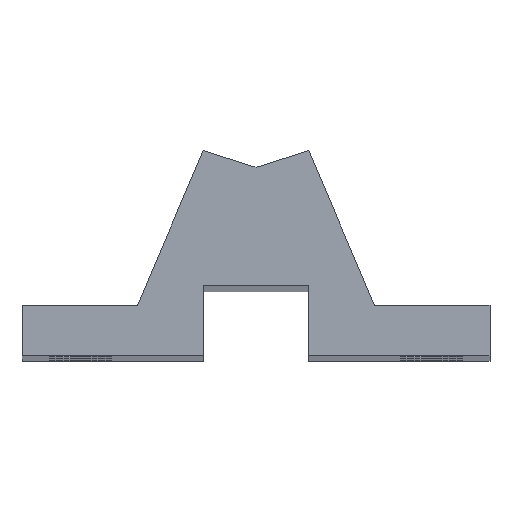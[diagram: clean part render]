
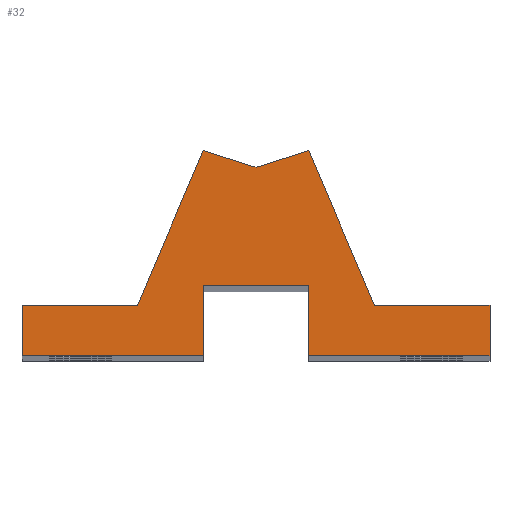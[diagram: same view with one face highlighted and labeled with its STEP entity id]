
A CAD part, top view. The second image highlights one B-rep face of the part: STEP entity #32.
In plain terms, the highlighted planar face has unit normal (0, 0, 1).
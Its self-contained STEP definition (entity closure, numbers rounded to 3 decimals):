
#9 = ORIENTED_EDGE ( 'NONE', *, *, #587, .T. ) ;
#17 = VERTEX_POINT ( 'NONE', #297 ) ;
#19 = EDGE_CURVE ( 'NONE', #779, #537, #410, .T. ) ;
#21 = CARTESIAN_POINT ( 'NONE',  ( -21.274, 4.5, 299.75 ) ) ;
#31 = CARTESIAN_POINT ( 'NONE',  ( -9.5, -4.5, 299.75 ) ) ;
#32 = ADVANCED_FACE ( 'NONE', ( #400 ), #995, .T. ) ;
#40 = VECTOR ( 'NONE', #536, 1000. ) ;
#55 = CARTESIAN_POINT ( 'NONE',  ( -9.5, 8., 299.75 ) ) ;
#76 = VERTEX_POINT ( 'NONE', #694 ) ;
#77 = ORIENTED_EDGE ( 'NONE', *, *, #942, .T. ) ;
#82 = EDGE_CURVE ( 'NONE', #542, #692, #405, .T. ) ;
#93 = VECTOR ( 'NONE', #1148, 1000. ) ;
#105 = CARTESIAN_POINT ( 'NONE',  ( -42., 4.5, 299.75 ) ) ;
#117 = CARTESIAN_POINT ( 'NONE',  ( 9.5, -4.5, 299.75 ) ) ;
#126 = LINE ( 'NONE', #1128, #415 ) ;
#150 = LINE ( 'NONE', #290, #922 ) ;
#158 = DIRECTION ( 'NONE',  ( -1., 0., 0. ) ) ;
#197 = CARTESIAN_POINT ( 'NONE',  ( 0., 0., 299.75 ) ) ;
#222 = VECTOR ( 'NONE', #613, 1000. ) ;
#227 = DIRECTION ( 'NONE',  ( -1., 0., 0. ) ) ;
#241 = VERTEX_POINT ( 'NONE', #453 ) ;
#264 = CARTESIAN_POINT ( 'NONE',  ( 0., 29.287, 299.75 ) ) ;
#290 = CARTESIAN_POINT ( 'NONE',  ( -9.5, 8., 299.75 ) ) ;
#297 = CARTESIAN_POINT ( 'NONE',  ( -21.274, 4.5, 299.75 ) ) ;
#306 = ORIENTED_EDGE ( 'NONE', *, *, #801, .T. ) ;
#309 = CARTESIAN_POINT ( 'NONE',  ( -42., 4.5, 299.75 ) ) ;
#330 = LINE ( 'NONE', #832, #430 ) ;
#332 = LINE ( 'NONE', #21, #727 ) ;
#338 = CARTESIAN_POINT ( 'NONE',  ( -42., -4.5, 299.75 ) ) ;
#340 = EDGE_CURVE ( 'NONE', #692, #779, #150, .T. ) ;
#354 = VECTOR ( 'NONE', #1032, 1000. ) ;
#361 = VERTEX_POINT ( 'NONE', #654 ) ;
#392 = VECTOR ( 'NONE', #1086, 1000. ) ;
#400 = FACE_OUTER_BOUND ( 'NONE', #1078, .T. ) ;
#404 = CARTESIAN_POINT ( 'NONE',  ( -42., -4.5, 299.75 ) ) ;
#405 = LINE ( 'NONE', #1092, #1107 ) ;
#410 = LINE ( 'NONE', #1276, #392 ) ;
#415 = VECTOR ( 'NONE', #815, 1000. ) ;
#417 = DIRECTION ( 'NONE',  ( 1., 0., 0. ) ) ;
#419 = VERTEX_POINT ( 'NONE', #601 ) ;
#429 = DIRECTION ( 'NONE',  ( 0., -1., 0. ) ) ;
#430 = VECTOR ( 'NONE', #227, 1000. ) ;
#432 = CARTESIAN_POINT ( 'NONE',  ( 9.45, 32.355, 299.75 ) ) ;
#437 = CARTESIAN_POINT ( 'NONE',  ( 9.731, 32.355, 299.75 ) ) ;
#446 = LINE ( 'NONE', #338, #40 ) ;
#453 = CARTESIAN_POINT ( 'NONE',  ( 9.483, 32.277, 299.75 ) ) ;
#458 = ORIENTED_EDGE ( 'NONE', *, *, #1079, .T. ) ;
#472 = ORIENTED_EDGE ( 'NONE', *, *, #867, .T. ) ;
#503 = ORIENTED_EDGE ( 'NONE', *, *, #340, .F. ) ;
#507 = VERTEX_POINT ( 'NONE', #811 ) ;
#536 = DIRECTION ( 'NONE',  ( 1., 0., 0. ) ) ;
#537 = VERTEX_POINT ( 'NONE', #31 ) ;
#540 = LINE ( 'NONE', #432, #1197 ) ;
#542 = VERTEX_POINT ( 'NONE', #117 ) ;
#555 = ORIENTED_EDGE ( 'NONE', *, *, #1048, .T. ) ;
#565 = LINE ( 'NONE', #1157, #93 ) ;
#566 = EDGE_CURVE ( 'NONE', #507, #537, #446, .T. ) ;
#574 = VERTEX_POINT ( 'NONE', #1187 ) ;
#587 = EDGE_CURVE ( 'NONE', #419, #507, #643, .T. ) ;
#601 = CARTESIAN_POINT ( 'NONE',  ( -42., 4.5, 299.75 ) ) ;
#606 = LINE ( 'NONE', #105, #1183 ) ;
#613 = DIRECTION ( 'NONE',  ( 1., 0., 0. ) ) ;
#633 = EDGE_CURVE ( 'NONE', #241, #1113, #800, .T. ) ;
#640 = DIRECTION ( 'NONE',  ( -1., 0., 0. ) ) ;
#642 = EDGE_CURVE ( 'NONE', #76, #734, #330, .T. ) ;
#643 = LINE ( 'NONE', #309, #842 ) ;
#654 = CARTESIAN_POINT ( 'NONE',  ( 42., -4.5, 299.75 ) ) ;
#690 = DIRECTION ( 'NONE',  ( -0.391, 0.921, 0. ) ) ;
#692 = VERTEX_POINT ( 'NONE', #856 ) ;
#694 = CARTESIAN_POINT ( 'NONE',  ( 42., 4.5, 299.75 ) ) ;
#727 = VECTOR ( 'NONE', #1221, 1000. ) ;
#734 = VERTEX_POINT ( 'NONE', #1158 ) ;
#779 = VERTEX_POINT ( 'NONE', #55 ) ;
#800 = LINE ( 'NONE', #437, #354 ) ;
#801 = EDGE_CURVE ( 'NONE', #1113, #574, #126, .T. ) ;
#811 = CARTESIAN_POINT ( 'NONE',  ( -42., -4.5, 299.75 ) ) ;
#815 = DIRECTION ( 'NONE',  ( -0.954, 0.301, 0. ) ) ;
#832 = CARTESIAN_POINT ( 'NONE',  ( -42., 4.5, 299.75 ) ) ;
#838 = ORIENTED_EDGE ( 'NONE', *, *, #19, .F. ) ;
#842 = VECTOR ( 'NONE', #429, 1000. ) ;
#856 = CARTESIAN_POINT ( 'NONE',  ( 9.5, 8., 299.75 ) ) ;
#867 = EDGE_CURVE ( 'NONE', #734, #241, #540, .T. ) ;
#882 = AXIS2_PLACEMENT_3D ( 'NONE', #197, #904, #417 ) ;
#903 = ORIENTED_EDGE ( 'NONE', *, *, #642, .T. ) ;
#904 = DIRECTION ( 'NONE',  ( 0., 0., 1. ) ) ;
#922 = VECTOR ( 'NONE', #158, 1000. ) ;
#942 = EDGE_CURVE ( 'NONE', #542, #361, #1280, .T. ) ;
#962 = ORIENTED_EDGE ( 'NONE', *, *, #566, .T. ) ;
#995 = PLANE ( 'NONE',  #882 ) ;
#996 = ORIENTED_EDGE ( 'NONE', *, *, #633, .T. ) ;
#1032 = DIRECTION ( 'NONE',  ( -0.954, -0.301, 0. ) ) ;
#1042 = ORIENTED_EDGE ( 'NONE', *, *, #82, .F. ) ;
#1048 = EDGE_CURVE ( 'NONE', #17, #419, #606, .T. ) ;
#1078 = EDGE_LOOP ( 'NONE', ( #1042, #77, #458, #903, #472, #996, #306, #1140, #555, #9, #962, #838, #503 ) ) ;
#1079 = EDGE_CURVE ( 'NONE', #361, #76, #565, .T. ) ;
#1086 = DIRECTION ( 'NONE',  ( 0., -1., 0. ) ) ;
#1092 = CARTESIAN_POINT ( 'NONE',  ( 9.5, 8., 299.75 ) ) ;
#1107 = VECTOR ( 'NONE', #1196, 1000. ) ;
#1113 = VERTEX_POINT ( 'NONE', #264 ) ;
#1128 = CARTESIAN_POINT ( 'NONE',  ( 0., 29.287, 299.75 ) ) ;
#1140 = ORIENTED_EDGE ( 'NONE', *, *, #1243, .T. ) ;
#1148 = DIRECTION ( 'NONE',  ( 0., 1., 0. ) ) ;
#1157 = CARTESIAN_POINT ( 'NONE',  ( 42., 4.5, 299.75 ) ) ;
#1158 = CARTESIAN_POINT ( 'NONE',  ( 21.274, 4.5, 299.75 ) ) ;
#1183 = VECTOR ( 'NONE', #640, 1000. ) ;
#1187 = CARTESIAN_POINT ( 'NONE',  ( -9.483, 32.277, 299.75 ) ) ;
#1196 = DIRECTION ( 'NONE',  ( 0., 1., 0. ) ) ;
#1197 = VECTOR ( 'NONE', #690, 1000. ) ;
#1221 = DIRECTION ( 'NONE',  ( -0.391, -0.921, 0. ) ) ;
#1243 = EDGE_CURVE ( 'NONE', #574, #17, #332, .T. ) ;
#1276 = CARTESIAN_POINT ( 'NONE',  ( -9.5, 8., 299.75 ) ) ;
#1280 = LINE ( 'NONE', #404, #222 ) ;
